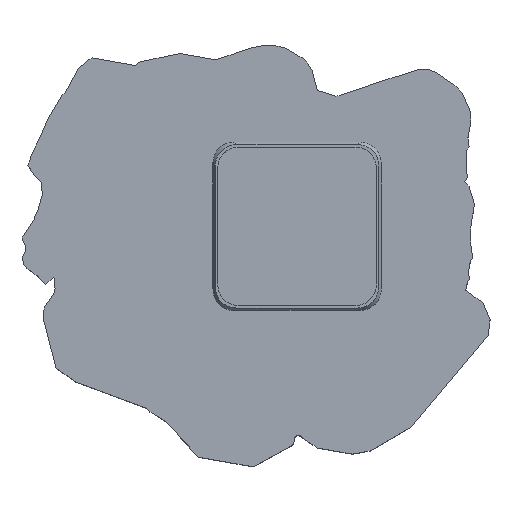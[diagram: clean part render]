
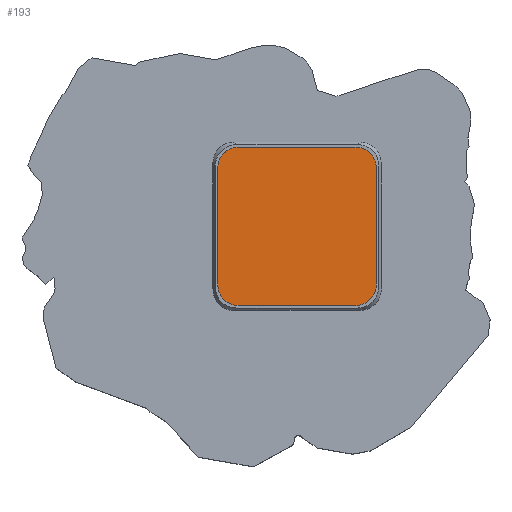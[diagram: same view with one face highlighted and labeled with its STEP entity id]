
A CAD part, top view. The second image highlights one B-rep face of the part: STEP entity #193.
In plain terms, the highlighted planar face has unit normal (0, 0, 1).
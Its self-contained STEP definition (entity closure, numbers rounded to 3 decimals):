
#193=ADVANCED_FACE('',(#437),#438,.T.);
#437=FACE_OUTER_BOUND('',#692,.T.);
#438=PLANE('',#693);
#692=EDGE_LOOP('',(#1830,#1831,#1832,#1833,#1834,#1835,#1836,#1837));
#693=AXIS2_PLACEMENT_3D('',#1838,#1839,#1840);
#1830=ORIENTED_EDGE('',*,*,#2204,.F.);
#1831=ORIENTED_EDGE('',*,*,#2220,.F.);
#1832=ORIENTED_EDGE('',*,*,#2223,.F.);
#1833=ORIENTED_EDGE('',*,*,#2217,.F.);
#1834=ORIENTED_EDGE('',*,*,#2214,.F.);
#1835=ORIENTED_EDGE('',*,*,#2211,.F.);
#1836=ORIENTED_EDGE('',*,*,#2224,.F.);
#1837=ORIENTED_EDGE('',*,*,#2207,.F.);
#1838=CARTESIAN_POINT('',(-1.637,-44.582,-8.0));
#1839=DIRECTION('',(0.,0.,1.0));
#1840=DIRECTION('',(-0.865,0.502,0.));
#2204=EDGE_CURVE('',#2785,#2780,#2787,.T.);
#2207=EDGE_CURVE('',#2780,#2788,#2792,.T.);
#2211=EDGE_CURVE('',#2798,#2793,#2800,.T.);
#2214=EDGE_CURVE('',#2793,#2801,#2805,.T.);
#2217=EDGE_CURVE('',#2801,#2806,#2810,.T.);
#2220=EDGE_CURVE('',#2813,#2785,#2815,.T.);
#2223=EDGE_CURVE('',#2806,#2813,#2818,.T.);
#2224=EDGE_CURVE('',#2788,#2798,#2819,.T.);
#2780=VERTEX_POINT('',#3693);
#2785=VERTEX_POINT('',#3700);
#2787=LINE('',#3703,#3704);
#2788=VERTEX_POINT('',#3705);
#2792=ELLIPSE('',#3710,6.124,5.0);
#2793=VERTEX_POINT('',#3711);
#2798=VERTEX_POINT('',#3717);
#2800=ELLIPSE('',#3720,6.124,5.0);
#2801=VERTEX_POINT('',#3721);
#2805=LINE('',#3727,#3728);
#2806=VERTEX_POINT('',#3729);
#2810=ELLIPSE('',#3734,6.124,5.0);
#2813=VERTEX_POINT('',#3737);
#2815=ELLIPSE('',#3740,6.124,5.0);
#2818=LINE('',#3745,#3746);
#2819=LINE('',#3747,#3748);
#3693=CARTESIAN_POINT('',(-16.4,11.928,-8.0));
#3700=CARTESIAN_POINT('',(-16.4,-11.928,-8.0));
#3703=CARTESIAN_POINT('',(-16.4,-11.928,-8.0));
#3704=VECTOR('',#4114,1.0);
#3705=CARTESIAN_POINT('',(-11.928,16.4,-8.0));
#3710=AXIS2_PLACEMENT_3D('',#4119,#4120,#4121);
#3711=CARTESIAN_POINT('',(16.4,11.928,-8.0));
#3717=CARTESIAN_POINT('',(11.928,16.4,-8.0));
#3720=AXIS2_PLACEMENT_3D('',#4127,#4128,#4129);
#3721=CARTESIAN_POINT('',(16.4,-11.928,-8.0));
#3727=CARTESIAN_POINT('',(16.4,11.928,-8.0));
#3728=VECTOR('',#4132,1.0);
#3729=CARTESIAN_POINT('',(11.928,-16.4,-8.0));
#3734=AXIS2_PLACEMENT_3D('',#4137,#4138,#4139);
#3737=CARTESIAN_POINT('',(-11.928,-16.4,-8.0));
#3740=AXIS2_PLACEMENT_3D('',#4144,#4145,#4146);
#3745=CARTESIAN_POINT('',(11.928,-16.4,-8.0));
#3746=VECTOR('',#4149,1.0);
#3747=CARTESIAN_POINT('',(-11.928,16.4,-8.0));
#3748=VECTOR('',#4150,1.0);
#4114=DIRECTION('',(0.0,1.0,0.));
#4119=CARTESIAN_POINT('',(-10.81,10.81,-8.0));
#4120=DIRECTION('',(0.,0.,-1.0));
#4121=DIRECTION('',(-0.707,0.707,0.));
#4127=CARTESIAN_POINT('',(10.81,10.81,-8.0));
#4128=DIRECTION('',(0.,0.,-1.0));
#4129=DIRECTION('',(-0.707,-0.707,0.));
#4132=DIRECTION('',(0.0,-1.0,0.));
#4137=CARTESIAN_POINT('',(10.81,-10.81,-8.0));
#4138=DIRECTION('',(0.,0.,-1.0));
#4139=DIRECTION('',(-0.707,0.707,0.));
#4144=CARTESIAN_POINT('',(-10.81,-10.81,-8.0));
#4145=DIRECTION('',(0.,0.,-1.0));
#4146=DIRECTION('',(-0.707,-0.707,0.));
#4149=DIRECTION('',(-1.0,0.,0.0));
#4150=DIRECTION('',(1.0,0.0,0.0));
